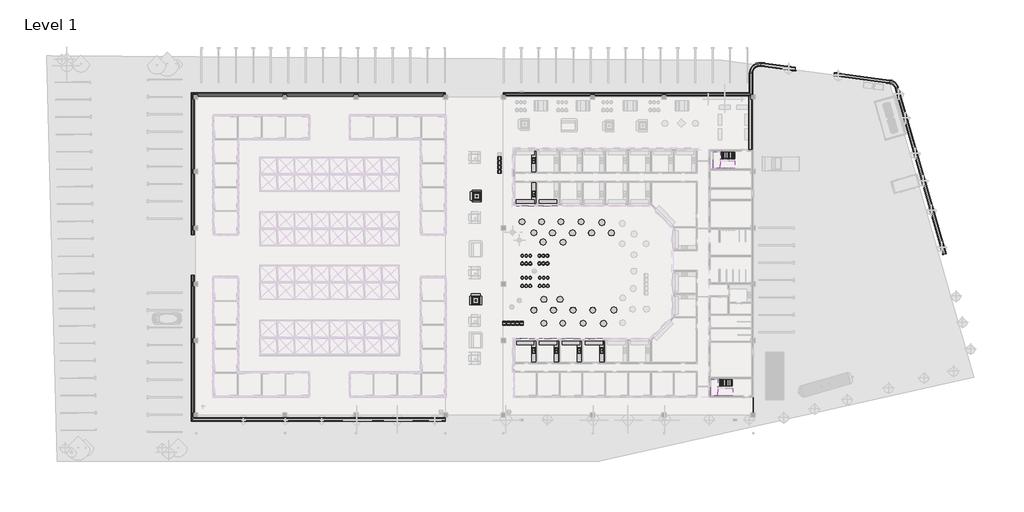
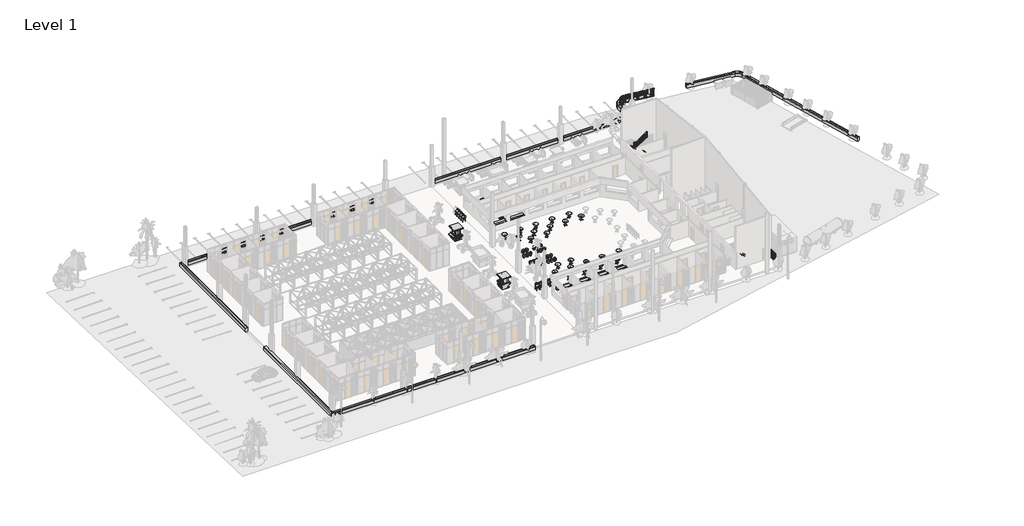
# One storey, part 29 of 32: 70 furniture elements, 8 railings, 6 flow terminals, 4 stair flights, 2 slabs.
"""IFC4 building model written with IfcOpenShell, lengths in millimetres."""

from ifc_helpers import new_model, si_unit, frame, origin, place, context, project, spatial, polyline, outline, extrude, faceted_brep, transform, mapped, element, save
from components import sink_kitchen_single_nz_760_x_535mm_626cda17, sink_kitchen_single_nz_760_x_535mm_eb015a84, furniture_c6f59ad9, counter_top_w_sink_nz_600mm_depth_6aa80716, counter_top_w_sink_nz_600mm_depth_e841d6a1, counter_top_island_nz_1220mm_depth_f6c0dd12, counter_top_island_nz_1220mm_depth_a1c74609, r225_brown_ebbc99b0, r225_brown_f5428c6b, r425_h750_a5844c7b, red_9dfa4864, red_3fb05847, railing_e34913bf, railing_7c37f561, railing_0471145e, railing_0e9476dd, railing_5606f964, fencing_tree_park_201aa649, fencing_tree_park_5cc4b941, fencing_tree_park_2f6e36ae, fencing_tree_park_3937f9b8, non_monolithic_landing_f94249ac, non_monolithic_landing_9e87be6b, wood_steps_w_50mm_tread_10mm_nosing_13mm_riser_b8e6a5a3, wood_steps_w_50mm_tread_10mm_nosing_13mm_riser_a1ae9321, wood_steps_w_50mm_tread_10mm_nosing_13mm_riser_582ac1d6, wood_steps_w_50mm_tread_10mm_nosing_13mm_riser_24bd857b

model = new_model("IFC4")

# Units and contexts
model_context = context("Model", 3, world=origin())
ifc_project = project(units=[si_unit("LENGTHUNIT", "METRE", prefix="MILLI")], contexts=[model_context])

# Site, building, storey
site = spatial("IfcSite", under=ifc_project)
building = spatial("IfcBuilding", under=site)
storey = spatial("IfcBuildingStorey", under=building, Name="Level 1", Elevation=2800.0)

# Flow terminals
placement = place(None, origin())
sink_kitchen_single_nz_760_x_535mm_shape = sink_kitchen_single_nz_760_x_535mm_626cda17(model_context)
element("IfcFlowTerminal", 1, ObjectType="Sink Kitchen-Single (NZ) : 760 x 535mm", at=placement, inside=storey, context=model_context, shape_type="MappedRepresentation", body=[
    mapped(sink_kitchen_single_nz_760_x_535mm_shape, transform((-42999.2510766, -740.6307191, 2800.0), x_axis=(0.0, -1.0, 0.0), y_axis=(1.0, 0.0, 0.0), z_axis=(0.0, 0.0, 1.0))),
])
element("IfcFlowTerminal", 2, ObjectType="Sink Kitchen-Single (NZ) : 760 x 535mm", at=placement, inside=storey, context=model_context, shape_type="MappedRepresentation", body=[
    mapped(sink_kitchen_single_nz_760_x_535mm_shape, transform((-33628.2510766, -26940.6307191, 2800.0), x_axis=(0.0, -1.0, 0.0), y_axis=(1.0, 0.0, 0.0), z_axis=(0.0, 0.0, 1.0))),
])
element("IfcFlowTerminal", 3, ObjectType="Sink Kitchen-Single (NZ) : 760 x 535mm", at=placement, inside=storey, context=model_context, shape_type="MappedRepresentation", body=[
    mapped(sink_kitchen_single_nz_760_x_535mm_shape, transform((-36724.2510766, -26940.6307191, 2800.0), x_axis=(0.0, -1.0, 0.0), y_axis=(1.0, 0.0, 0.0), z_axis=(0.0, 0.0, 1.0))),
])
element("IfcFlowTerminal", 4, ObjectType="Sink Kitchen-Single (NZ) : 760 x 535mm", at=placement, inside=storey, context=model_context, shape_type="MappedRepresentation", body=[
    mapped(sink_kitchen_single_nz_760_x_535mm_shape, transform((-39874.2510766, -26940.6307191, 2800.0), x_axis=(0.0, -1.0, 0.0), y_axis=(1.0, 0.0, 0.0), z_axis=(0.0, 0.0, 1.0))),
])
element("IfcFlowTerminal", 5, ObjectType="Sink Kitchen-Single (NZ) : 760 x 535mm", at=placement, inside=storey, context=model_context, shape_type="MappedRepresentation", body=[
    mapped(sink_kitchen_single_nz_760_x_535mm_shape, transform((-42999.2510766, -26940.6307191, 2800.0), x_axis=(0.0, -1.0, 0.0), y_axis=(1.0, 0.0, 0.0), z_axis=(0.0, 0.0, 1.0))),
])
sink_kitchen_single_nz_760_x_535mm_2_shape = sink_kitchen_single_nz_760_x_535mm_eb015a84(model_context)
element("IfcFlowTerminal", 6, ObjectType="Sink Kitchen-Single (NZ) : 760 x 535mm", at=placement, inside=storey, context=model_context, shape_type="MappedRepresentation", body=[
    mapped(sink_kitchen_single_nz_760_x_535mm_2_shape, transform((-42999.2510766, -5371.2092002, 2800.0), x_axis=(0.0, 1.0, 0.0), y_axis=(-1.0, 0.0, 0.0), z_axis=(0.0, 0.0, 1.0))),
])

# Furniture
furniture_shape = furniture_c6f59ad9(model_context)
element("IfcFurniture", 7, ObjectType="Mall_Kiosk_12196 : Mall_Kiosk_12196", at=placement, inside=storey, context=model_context, shape_type="MappedRepresentation", body=[
    mapped(furniture_shape, transform((-50736.8478201, -20043.4199596, 2800.0), x_axis=(-1.0, 0.0, 0.0), y_axis=(0.0, -1.0, 0.0), z_axis=(0.0, 0.0, 1.0))),
])
element("IfcFurniture", 8, ObjectType="Mall_Kiosk_12196 : Mall_Kiosk_12196", at=placement, inside=storey, context=model_context, shape_type="MappedRepresentation", body=[
    mapped(furniture_shape, transform((-50903.171286, -5343.4199596, 2800.0), x_axis=(0.0, -1.0, 0.0), y_axis=(1.0, 0.0, 0.0), z_axis=(0.0, 0.0, 1.0))),
])
counter_top_w_sink_nz_600mm_depth_shape = counter_top_w_sink_nz_600mm_depth_6aa80716(model_context)
element("IfcFurniture", 9, ObjectType="Counter Top w Sink (NZ) : 600mm Depth", at=placement, inside=storey, context=model_context, shape_type="MappedRepresentation", body=[
    mapped(counter_top_w_sink_nz_600mm_depth_shape, transform((-42686.3056755, -606.3822547, 2800.0), x_axis=(0.0, -1.0, 0.0), y_axis=(1.0, 0.0, 0.0), z_axis=(0.0, 0.0, 1.0))),
])
element("IfcFurniture", 10, ObjectType="Counter Top w Sink (NZ) : 600mm Depth", at=placement, inside=storey, context=model_context, shape_type="MappedRepresentation", body=[
    mapped(counter_top_w_sink_nz_600mm_depth_shape, transform((-33315.3056755, -26806.3822547, 2800.0), x_axis=(0.0, -1.0, 0.0), y_axis=(1.0, 0.0, 0.0), z_axis=(0.0, 0.0, 1.0))),
])
element("IfcFurniture", 11, ObjectType="Counter Top w Sink (NZ) : 600mm Depth", at=placement, inside=storey, context=model_context, shape_type="MappedRepresentation", body=[
    mapped(counter_top_w_sink_nz_600mm_depth_shape, transform((-36411.3056755, -26806.3822547, 2800.0), x_axis=(0.0, -1.0, 0.0), y_axis=(1.0, 0.0, 0.0), z_axis=(0.0, 0.0, 1.0))),
])
element("IfcFurniture", 12, ObjectType="Counter Top w Sink (NZ) : 600mm Depth", at=placement, inside=storey, context=model_context, shape_type="MappedRepresentation", body=[
    mapped(counter_top_w_sink_nz_600mm_depth_shape, transform((-39561.3056755, -26806.3822547, 2800.0), x_axis=(0.0, -1.0, 0.0), y_axis=(1.0, 0.0, 0.0), z_axis=(0.0, 0.0, 1.0))),
])
element("IfcFurniture", 13, ObjectType="Counter Top w Sink (NZ) : 600mm Depth", at=placement, inside=storey, context=model_context, shape_type="MappedRepresentation", body=[
    mapped(counter_top_w_sink_nz_600mm_depth_shape, transform((-42686.3056755, -26806.3822547, 2800.0), x_axis=(0.0, -1.0, 0.0), y_axis=(1.0, 0.0, 0.0), z_axis=(0.0, 0.0, 1.0))),
])
counter_top_w_sink_nz_600mm_depth_2_shape = counter_top_w_sink_nz_600mm_depth_e841d6a1(model_context)
element("IfcFurniture", 14, ObjectType="Counter Top w Sink (NZ) : 600mm Depth", at=placement, inside=storey, context=model_context, shape_type="MappedRepresentation", body=[
    mapped(counter_top_w_sink_nz_600mm_depth_2_shape, transform((-42686.3056755, -5505.4576645, 2800.0), x_axis=(0.0, 1.0, 0.0), y_axis=(-1.0, 0.0, 0.0), z_axis=(0.0, 0.0, 1.0))),
])
counter_top_island_nz_1220mm_depth_shape = counter_top_island_nz_1220mm_depth_f6c0dd12(model_context)
element("IfcFurniture", 15, ObjectType="Counter Top-Island (NZ) : 1220mm Depth", at=placement, inside=storey, context=model_context, shape_type="MappedRepresentation", body=[
    mapped(counter_top_island_nz_1220mm_depth_shape, transform((-41086.7679705, -6190.9199596, 3100.0), x_axis=(-1.0, 0.0, 0.0), y_axis=(0.0, -1.0, 0.0), z_axis=(0.0, 0.0, 1.0))),
])
element("IfcFurniture", 16, ObjectType="Counter Top-Island (NZ) : 1220mm Depth", at=placement, inside=storey, context=model_context, shape_type="MappedRepresentation", body=[
    mapped(counter_top_island_nz_1220mm_depth_shape, transform((-44207.3962304, -6190.9199596, 3100.0), x_axis=(-1.0, 0.0, 0.0), y_axis=(0.0, -1.0, 0.0), z_axis=(0.0, 0.0, 1.0))),
])
counter_top_island_nz_1220mm_depth_2_shape = counter_top_island_nz_1220mm_depth_a1c74609(model_context)
element("IfcFurniture", 17, ObjectType="Counter Top-Island (NZ) : 1220mm Depth", at=placement, inside=storey, context=model_context, shape_type="MappedRepresentation", body=[
    mapped(counter_top_island_nz_1220mm_depth_2_shape, transform((-34761.3962304, -26120.9199596, 3100.0), x_axis=(-1.0, 0.0, 0.0), y_axis=(0.0, -1.0, 0.0), z_axis=(0.0, 0.0, 1.0))),
])
element("IfcFurniture", 18, ObjectType="Counter Top-Island (NZ) : 1220mm Depth", at=placement, inside=storey, context=model_context, shape_type="MappedRepresentation", body=[
    mapped(counter_top_island_nz_1220mm_depth_2_shape, transform((-37911.3962304, -26120.9199596, 3100.0), x_axis=(-1.0, 0.0, 0.0), y_axis=(0.0, -1.0, 0.0), z_axis=(0.0, 0.0, 1.0))),
])
element("IfcFurniture", 19, ObjectType="Counter Top-Island (NZ) : 1220mm Depth", at=placement, inside=storey, context=model_context, shape_type="MappedRepresentation", body=[
    mapped(counter_top_island_nz_1220mm_depth_2_shape, transform((-41061.3962304, -26120.9199596, 3100.0), x_axis=(-1.0, 0.0, 0.0), y_axis=(0.0, -1.0, 0.0), z_axis=(0.0, 0.0, 1.0))),
])
element("IfcFurniture", 20, ObjectType="Counter Top-Island (NZ) : 1220mm Depth", at=placement, inside=storey, context=model_context, shape_type="MappedRepresentation", body=[
    mapped(counter_top_island_nz_1220mm_depth_2_shape, transform((-44211.3962304, -26120.9199596, 3100.0), x_axis=(-1.0, 0.0, 0.0), y_axis=(0.0, -1.0, 0.0), z_axis=(0.0, 0.0, 1.0))),
])
r225_brown_shape = r225_brown_ebbc99b0(model_context)
element("IfcFurniture", 21, ObjectType="TN.RES.Stool01 : R225 Brown", at=placement, inside=storey, context=model_context, shape_type="MappedRepresentation", body=[
    mapped(r225_brown_shape, transform((-41120.9339353, -16912.1595997, 2800.0), x_axis=(-1.0, 0.0, 0.0), y_axis=(0.0, -1.0, 0.0), z_axis=(0.0, 0.0, 1.0))),
])
element("IfcFurniture", 22, ObjectType="TN.RES.Stool01 : R225 Brown", at=placement, inside=storey, context=model_context, shape_type="MappedRepresentation", body=[
    mapped(r225_brown_shape, transform((-41670.9339353, -16912.1595997, 2800.0), x_axis=(-1.0, 0.0, 0.0), y_axis=(0.0, -1.0, 0.0), z_axis=(0.0, 0.0, 1.0))),
])
element("IfcFurniture", 23, ObjectType="TN.RES.Stool01 : R225 Brown", at=placement, inside=storey, context=model_context, shape_type="MappedRepresentation", body=[
    mapped(r225_brown_shape, transform((-42220.9339353, -16912.1595997, 2800.0), x_axis=(-1.0, 0.0, 0.0), y_axis=(0.0, -1.0, 0.0), z_axis=(0.0, 0.0, 1.0))),
])
element("IfcFurniture", 24, ObjectType="TN.RES.Stool01 : R225 Brown", at=placement, inside=storey, context=model_context, shape_type="MappedRepresentation", body=[
    mapped(r225_brown_shape, transform((-43530.9339353, -16912.1595997, 2800.0), x_axis=(-1.0, 0.0, 0.0), y_axis=(0.0, -1.0, 0.0), z_axis=(0.0, 0.0, 1.0))),
])
element("IfcFurniture", 25, ObjectType="TN.RES.Stool01 : R225 Brown", at=placement, inside=storey, context=model_context, shape_type="MappedRepresentation", body=[
    mapped(r225_brown_shape, transform((-44080.9339353, -16912.1595997, 2800.0), x_axis=(-1.0, 0.0, 0.0), y_axis=(0.0, -1.0, 0.0), z_axis=(0.0, 0.0, 1.0))),
])
element("IfcFurniture", 26, ObjectType="TN.RES.Stool01 : R225 Brown", at=placement, inside=storey, context=model_context, shape_type="MappedRepresentation", body=[
    mapped(r225_brown_shape, transform((-44630.9339353, -16912.1595997, 2800.0), x_axis=(-1.0, 0.0, 0.0), y_axis=(0.0, -1.0, 0.0), z_axis=(0.0, 0.0, 1.0))),
])
element("IfcFurniture", 27, ObjectType="TN.RES.Stool01 : R225 Brown", at=placement, inside=storey, context=model_context, shape_type="MappedRepresentation", body=[
    mapped(r225_brown_shape, transform((-41157.3204104, -13862.7618597, 2800.0), x_axis=(-1.0, 0.0, 0.0), y_axis=(0.0, -1.0, 0.0), z_axis=(0.0, 0.0, 1.0))),
])
element("IfcFurniture", 28, ObjectType="TN.RES.Stool01 : R225 Brown", at=placement, inside=storey, context=model_context, shape_type="MappedRepresentation", body=[
    mapped(r225_brown_shape, transform((-41707.3204104, -13862.7618597, 2800.0), x_axis=(-1.0, 0.0, 0.0), y_axis=(0.0, -1.0, 0.0), z_axis=(0.0, 0.0, 1.0))),
])
element("IfcFurniture", 29, ObjectType="TN.RES.Stool01 : R225 Brown", at=placement, inside=storey, context=model_context, shape_type="MappedRepresentation", body=[
    mapped(r225_brown_shape, transform((-42257.3204104, -13862.7618597, 2800.0), x_axis=(-1.0, 0.0, 0.0), y_axis=(0.0, -1.0, 0.0), z_axis=(0.0, 0.0, 1.0))),
])
element("IfcFurniture", 30, ObjectType="TN.RES.Stool01 : R225 Brown", at=placement, inside=storey, context=model_context, shape_type="MappedRepresentation", body=[
    mapped(r225_brown_shape, transform((-43530.9339353, -13862.7618597, 2800.0), x_axis=(-1.0, 0.0, 0.0), y_axis=(0.0, -1.0, 0.0), z_axis=(0.0, 0.0, 1.0))),
])
element("IfcFurniture", 31, ObjectType="TN.RES.Stool01 : R225 Brown", at=placement, inside=storey, context=model_context, shape_type="MappedRepresentation", body=[
    mapped(r225_brown_shape, transform((-44080.9339353, -13862.7618597, 2800.0), x_axis=(-1.0, 0.0, 0.0), y_axis=(0.0, -1.0, 0.0), z_axis=(0.0, 0.0, 1.0))),
])
element("IfcFurniture", 32, ObjectType="TN.RES.Stool01 : R225 Brown", at=placement, inside=storey, context=model_context, shape_type="MappedRepresentation", body=[
    mapped(r225_brown_shape, transform((-44630.9339353, -13862.7618597, 2800.0), x_axis=(-1.0, 0.0, 0.0), y_axis=(0.0, -1.0, 0.0), z_axis=(0.0, 0.0, 1.0))),
])
r225_brown_2_shape = r225_brown_f5428c6b(model_context)
element("IfcFurniture", 33, ObjectType="TN.RES.Stool01 : R225 Brown", at=placement, inside=storey, context=model_context, shape_type="MappedRepresentation", body=[
    mapped(r225_brown_2_shape, transform((-41120.9339353, -17999.6803196, 2800.0), x_axis=(-1.0, 0.0, 0.0), y_axis=(0.0, -1.0, 0.0), z_axis=(0.0, 0.0, 1.0))),
])
element("IfcFurniture", 34, ObjectType="TN.RES.Stool01 : R225 Brown", at=placement, inside=storey, context=model_context, shape_type="MappedRepresentation", body=[
    mapped(r225_brown_2_shape, transform((-41670.9339353, -17999.6803196, 2800.0), x_axis=(-1.0, 0.0, 0.0), y_axis=(0.0, -1.0, 0.0), z_axis=(0.0, 0.0, 1.0))),
])
element("IfcFurniture", 35, ObjectType="TN.RES.Stool01 : R225 Brown", at=placement, inside=storey, context=model_context, shape_type="MappedRepresentation", body=[
    mapped(r225_brown_2_shape, transform((-42220.9339353, -17999.6803196, 2800.0), x_axis=(-1.0, 0.0, 0.0), y_axis=(0.0, -1.0, 0.0), z_axis=(0.0, 0.0, 1.0))),
])
element("IfcFurniture", 36, ObjectType="TN.RES.Stool01 : R225 Brown", at=placement, inside=storey, context=model_context, shape_type="MappedRepresentation", body=[
    mapped(r225_brown_2_shape, transform((-43530.9339353, -17999.6803196, 2800.0), x_axis=(-1.0, 0.0, 0.0), y_axis=(0.0, -1.0, 0.0), z_axis=(0.0, 0.0, 1.0))),
])
element("IfcFurniture", 37, ObjectType="TN.RES.Stool01 : R225 Brown", at=placement, inside=storey, context=model_context, shape_type="MappedRepresentation", body=[
    mapped(r225_brown_2_shape, transform((-44080.9339353, -17999.6803196, 2800.0), x_axis=(-1.0, 0.0, 0.0), y_axis=(0.0, -1.0, 0.0), z_axis=(0.0, 0.0, 1.0))),
])
element("IfcFurniture", 38, ObjectType="TN.RES.Stool01 : R225 Brown", at=placement, inside=storey, context=model_context, shape_type="MappedRepresentation", body=[
    mapped(r225_brown_2_shape, transform((-44630.9339353, -17999.6803196, 2800.0), x_axis=(-1.0, 0.0, 0.0), y_axis=(0.0, -1.0, 0.0), z_axis=(0.0, 0.0, 1.0))),
])
element("IfcFurniture", 39, ObjectType="TN.RES.Stool01 : R225 Brown", at=placement, inside=storey, context=model_context, shape_type="MappedRepresentation", body=[
    mapped(r225_brown_2_shape, transform((-41157.3204104, -14950.2825796, 2800.0), x_axis=(-1.0, 0.0, 0.0), y_axis=(0.0, -1.0, 0.0), z_axis=(0.0, 0.0, 1.0))),
])
element("IfcFurniture", 40, ObjectType="TN.RES.Stool01 : R225 Brown", at=placement, inside=storey, context=model_context, shape_type="MappedRepresentation", body=[
    mapped(r225_brown_2_shape, transform((-41707.3204104, -14950.2825796, 2800.0), x_axis=(-1.0, 0.0, 0.0), y_axis=(0.0, -1.0, 0.0), z_axis=(0.0, 0.0, 1.0))),
])
element("IfcFurniture", 41, ObjectType="TN.RES.Stool01 : R225 Brown", at=placement, inside=storey, context=model_context, shape_type="MappedRepresentation", body=[
    mapped(r225_brown_2_shape, transform((-42257.3204104, -14950.2825796, 2800.0), x_axis=(-1.0, 0.0, 0.0), y_axis=(0.0, -1.0, 0.0), z_axis=(0.0, 0.0, 1.0))),
])
element("IfcFurniture", 42, ObjectType="TN.RES.Stool01 : R225 Brown", at=placement, inside=storey, context=model_context, shape_type="MappedRepresentation", body=[
    mapped(r225_brown_2_shape, transform((-43530.9339353, -14950.2825796, 2800.0), x_axis=(-1.0, 0.0, 0.0), y_axis=(0.0, -1.0, 0.0), z_axis=(0.0, 0.0, 1.0))),
])
element("IfcFurniture", 43, ObjectType="TN.RES.Stool01 : R225 Brown", at=placement, inside=storey, context=model_context, shape_type="MappedRepresentation", body=[
    mapped(r225_brown_2_shape, transform((-44080.9339353, -14950.2825796, 2800.0), x_axis=(-1.0, 0.0, 0.0), y_axis=(0.0, -1.0, 0.0), z_axis=(0.0, 0.0, 1.0))),
])
element("IfcFurniture", 44, ObjectType="TN.RES.Stool01 : R225 Brown", at=placement, inside=storey, context=model_context, shape_type="MappedRepresentation", body=[
    mapped(r225_brown_2_shape, transform((-44630.9339353, -14950.2825796, 2800.0), x_axis=(-1.0, 0.0, 0.0), y_axis=(0.0, -1.0, 0.0), z_axis=(0.0, 0.0, 1.0))),
])
r425_h750_shape = r425_h750_a5844c7b(model_context)
element("IfcFurniture", 45, ObjectType="TN.RES.Table03 : R425 H750", at=placement, inside=storey, context=model_context, shape_type="MappedRepresentation", body=[
    mapped(r425_h750_shape, transform((-32001.456022, -21343.4199146, 2800.0), x_axis=(0.0, -1.0, 0.0), y_axis=(1.0, 0.0, 0.0), z_axis=(0.0, 0.0, 1.0))),
])
element("IfcFurniture", 46, ObjectType="TN.RES.Table03 : R425 H750", at=placement, inside=storey, context=model_context, shape_type="MappedRepresentation", body=[
    mapped(r425_h750_shape, transform((-33424.6748473, -23203.1387689, 2800.0), x_axis=(-0.7071067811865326, 0.7071067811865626, 0.0), y_axis=(-0.7071067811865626, -0.7071067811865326, 0.0), z_axis=(0.0, 0.0, 1.0))),
])
element("IfcFurniture", 47, ObjectType="TN.RES.Table03 : R425 H750", at=placement, inside=storey, context=model_context, shape_type="MappedRepresentation", body=[
    mapped(r425_h750_shape, transform((-36230.1773642, -23180.214161, 2800.0), x_axis=(-0.7071067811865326, 0.7071067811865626, 0.0), y_axis=(-0.7071067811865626, -0.7071067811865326, 0.0), z_axis=(0.0, 0.0, 1.0))),
])
element("IfcFurniture", 48, ObjectType="TN.RES.Table03 : R425 H750", at=placement, inside=storey, context=model_context, shape_type="MappedRepresentation", body=[
    mapped(r425_h750_shape, transform((-39051.3163916, -23172.9260637, 2800.0), x_axis=(-0.7071067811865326, 0.7071067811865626, 0.0), y_axis=(-0.7071067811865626, -0.7071067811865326, 0.0), z_axis=(0.0, 0.0, 1.0))),
])
element("IfcFurniture", 49, ObjectType="TN.RES.Table03 : R425 H750", at=placement, inside=storey, context=model_context, shape_type="MappedRepresentation", body=[
    mapped(r425_h750_shape, transform((-34902.3580628, -21376.9958771, 2800.0), x_axis=(0.0, -1.0, 0.0), y_axis=(1.0, 0.0, 0.0), z_axis=(0.0, 0.0, 1.0))),
])
element("IfcFurniture", 50, ObjectType="TN.RES.Table03 : R425 H750", at=placement, inside=storey, context=model_context, shape_type="MappedRepresentation", body=[
    mapped(r425_h750_shape, transform((-37627.1946337, -21376.9958771, 2800.0), x_axis=(0.0, -1.0, 0.0), y_axis=(1.0, 0.0, 0.0), z_axis=(0.0, 0.0, 1.0))),
])
element("IfcFurniture", 51, ObjectType="TN.RES.Table03 : R425 H750", at=placement, inside=storey, context=model_context, shape_type="MappedRepresentation", body=[
    mapped(r425_h750_shape, transform((-35069.5098978, -10714.4958771, 2800.0), x_axis=(0.0, -1.0, 0.0), y_axis=(1.0, 0.0, 0.0), z_axis=(0.0, 0.0, 1.0))),
])
element("IfcFurniture", 52, ObjectType="TN.RES.Table03 : R425 H750", at=placement, inside=storey, context=model_context, shape_type="MappedRepresentation", body=[
    mapped(r425_h750_shape, transform((-33652.4015737, -9299.6035104, 2800.0), x_axis=(-0.7071067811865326, 0.7071067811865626, 0.0), y_axis=(-0.7071067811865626, -0.7071067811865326, 0.0), z_axis=(0.0, 0.0, 1.0))),
])
element("IfcFurniture", 53, ObjectType="TN.RES.Table03 : R425 H750", at=placement, inside=storey, context=model_context, shape_type="MappedRepresentation", body=[
    mapped(r425_h750_shape, transform((-36512.4691651, -9187.1534774, 2800.0), x_axis=(-0.7071067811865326, 0.7071067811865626, 0.0), y_axis=(-0.7071067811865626, -0.7071067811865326, 0.0), z_axis=(0.0, 0.0, 1.0))),
])
element("IfcFurniture", 54, ObjectType="TN.RES.Table03 : R425 H750", at=placement, inside=storey, context=model_context, shape_type="MappedRepresentation", body=[
    mapped(r425_h750_shape, transform((-39309.2121, -9184.5230923, 2800.0), x_axis=(-0.7071067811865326, 0.7071067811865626, 0.0), y_axis=(-0.7071067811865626, -0.7071067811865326, 0.0), z_axis=(0.0, 0.0, 1.0))),
])
element("IfcFurniture", 55, ObjectType="TN.RES.Table03 : R425 H750", at=placement, inside=storey, context=model_context, shape_type="MappedRepresentation", body=[
    mapped(r425_h750_shape, transform((-37694.3464687, -10714.4958771, 2800.0), x_axis=(0.0, -1.0, 0.0), y_axis=(1.0, 0.0, 0.0), z_axis=(0.0, 0.0, 1.0))),
])
element("IfcFurniture", 56, ObjectType="TN.RES.Table03 : R425 H750", at=placement, inside=storey, context=model_context, shape_type="MappedRepresentation", body=[
    mapped(r425_h750_shape, transform((-40460.9339353, -10714.4958771, 2800.0), x_axis=(0.0, -1.0, 0.0), y_axis=(1.0, 0.0, 0.0), z_axis=(0.0, 0.0, 1.0))),
])
element("IfcFurniture", 57, ObjectType="TN.RES.Table03 : R425 H750", at=placement, inside=storey, context=model_context, shape_type="MappedRepresentation", body=[
    mapped(r425_h750_shape, transform((-41651.3163916, -23172.9260637, 2800.0), x_axis=(-0.7071067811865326, 0.7071067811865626, 0.0), y_axis=(-0.7071067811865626, -0.7071067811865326, 0.0), z_axis=(0.0, 0.0, 1.0))),
])
element("IfcFurniture", 58, ObjectType="TN.RES.Table03 : R425 H750", at=placement, inside=storey, context=model_context, shape_type="MappedRepresentation", body=[
    mapped(r425_h750_shape, transform((-40327.1946337, -21376.9958771, 2800.0), x_axis=(0.0, -1.0, 0.0), y_axis=(1.0, 0.0, 0.0), z_axis=(0.0, 0.0, 1.0))),
])
element("IfcFurniture", 59, ObjectType="TN.RES.Table03 : R425 H750", at=placement, inside=storey, context=model_context, shape_type="MappedRepresentation", body=[
    mapped(r425_h750_shape, transform((-43027.1946337, -21376.9958771, 2800.0), x_axis=(0.0, -1.0, 0.0), y_axis=(1.0, 0.0, 0.0), z_axis=(0.0, 0.0, 1.0))),
])
element("IfcFurniture", 60, ObjectType="TN.RES.Table03 : R425 H750", at=placement, inside=storey, context=model_context, shape_type="MappedRepresentation", body=[
    mapped(r425_h750_shape, transform((-41651.3163916, -19880.9199596, 2800.0), x_axis=(-0.7071067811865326, 0.7071067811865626, 0.0), y_axis=(-0.7071067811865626, -0.7071067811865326, 0.0), z_axis=(0.0, 0.0, 1.0))),
])
element("IfcFurniture", 61, ObjectType="TN.RES.Table03 : R425 H750", at=placement, inside=storey, context=model_context, shape_type="MappedRepresentation", body=[
    mapped(r425_h750_shape, transform((-39423.7747285, -19880.9199596, 2800.0), x_axis=(-0.7071067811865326, 0.7071067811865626, 0.0), y_axis=(-0.7071067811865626, -0.7071067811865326, 0.0), z_axis=(0.0, 0.0, 1.0))),
])
element("IfcFurniture", 62, ObjectType="TN.RES.Table03 : R425 H750", at=placement, inside=storey, context=model_context, shape_type="MappedRepresentation", body=[
    mapped(r425_h750_shape, transform((-32344.3464687, -10714.4958771, 2800.0), x_axis=(0.0, -1.0, 0.0), y_axis=(1.0, 0.0, 0.0), z_axis=(0.0, 0.0, 1.0))),
])
element("IfcFurniture", 63, ObjectType="TN.RES.Table03 : R425 H750", at=placement, inside=storey, context=model_context, shape_type="MappedRepresentation", body=[
    mapped(r425_h750_shape, transform((-43027.1946337, -10705.9199596, 2800.0), x_axis=(0.0, -1.0, 0.0), y_axis=(1.0, 0.0, 0.0), z_axis=(0.0, 0.0, 1.0))),
])
element("IfcFurniture", 64, ObjectType="TN.RES.Table03 : R425 H750", at=placement, inside=storey, context=model_context, shape_type="MappedRepresentation", body=[
    mapped(r425_h750_shape, transform((-41954.9472692, -9184.5230923, 2800.0), x_axis=(-0.7071067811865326, 0.7071067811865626, 0.0), y_axis=(-0.7071067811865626, -0.7071067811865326, 0.0), z_axis=(0.0, 0.0, 1.0))),
])
element("IfcFurniture", 65, ObjectType="TN.RES.Table03 : R425 H750", at=placement, inside=storey, context=model_context, shape_type="MappedRepresentation", body=[
    mapped(r425_h750_shape, transform((-44654.9472692, -9184.5230923, 2800.0), x_axis=(-0.7071067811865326, 0.7071067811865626, 0.0), y_axis=(-0.7071067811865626, -0.7071067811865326, 0.0), z_axis=(0.0, 0.0, 1.0))),
])
element("IfcFurniture", 66, ObjectType="TN.RES.Table03 : R425 H750", at=placement, inside=storey, context=model_context, shape_type="MappedRepresentation", body=[
    mapped(r425_h750_shape, transform((-41754.9472692, -11984.5230923, 2800.0), x_axis=(-0.7071067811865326, 0.7071067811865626, 0.0), y_axis=(-0.7071067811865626, -0.7071067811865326, 0.0), z_axis=(0.0, 0.0, 1.0))),
])
element("IfcFurniture", 67, ObjectType="TN.RES.Table03 : R425 H750", at=placement, inside=storey, context=model_context, shape_type="MappedRepresentation", body=[
    mapped(r425_h750_shape, transform((-39009.2121, -12010.7897641, 2800.0), x_axis=(-0.7071067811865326, 0.7071067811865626, 0.0), y_axis=(-0.7071067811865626, -0.7071067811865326, 0.0), z_axis=(0.0, 0.0, 1.0))),
])
red_shape = red_9dfa4864(model_context)
element("IfcFurniture", 68, ObjectType="TN.RES.Chair05 : Red", at=placement, inside=storey, context=model_context, shape_type="MappedRepresentation", body=[
    mapped(red_shape, transform((-47750.3056755, -480.9199596, 2800.0), x_axis=(0.0, 1.0, 0.0), y_axis=(-1.0, 0.0, 0.0), z_axis=(0.0, 0.0, 1.0))),
])
element("IfcFurniture", 69, ObjectType="TN.RES.Chair05 : Red", at=placement, inside=storey, context=model_context, shape_type="MappedRepresentation", body=[
    mapped(red_shape, transform((-47750.3056755, -1080.9199596, 2800.0), x_axis=(0.0, 1.0, 0.0), y_axis=(-1.0, 0.0, 0.0), z_axis=(0.0, 0.0, 1.0))),
])
element("IfcFurniture", 70, ObjectType="TN.RES.Chair05 : Red", at=placement, inside=storey, context=model_context, shape_type="MappedRepresentation", body=[
    mapped(red_shape, transform((-47750.3056755, -1680.9199596, 2800.0), x_axis=(0.0, 1.0, 0.0), y_axis=(-1.0, 0.0, 0.0), z_axis=(0.0, 0.0, 1.0))),
])
element("IfcFurniture", 71, ObjectType="TN.RES.Chair05 : Red", at=placement, inside=storey, context=model_context, shape_type="MappedRepresentation", body=[
    mapped(red_shape, transform((-47750.3056755, -2280.9199596, 2800.0), x_axis=(0.0, 1.0, 0.0), y_axis=(-1.0, 0.0, 0.0), z_axis=(0.0, 0.0, 1.0))),
])
red_2_shape = red_3fb05847(model_context)
element("IfcFurniture", 72, ObjectType="TN.RES.Chair05 : Red", at=placement, inside=storey, context=model_context, shape_type="MappedRepresentation", body=[
    mapped(red_2_shape, transform((-44717.4077866, -23175.9199596, 2800.0), x_axis=(1.0, 0.0, 0.0), y_axis=(0.0, 1.0, 0.0), z_axis=(0.0, 0.0, 1.0))),
])
element("IfcFurniture", 73, ObjectType="TN.RES.Chair05 : Red", at=placement, inside=storey, context=model_context, shape_type="MappedRepresentation", body=[
    mapped(red_2_shape, transform((-45317.4077866, -23175.9199596, 2800.0), x_axis=(1.0, 0.0, 0.0), y_axis=(0.0, 1.0, 0.0), z_axis=(0.0, 0.0, 1.0))),
])
element("IfcFurniture", 74, ObjectType="TN.RES.Chair05 : Red", at=placement, inside=storey, context=model_context, shape_type="MappedRepresentation", body=[
    mapped(red_2_shape, transform((-45917.4077866, -23175.9199596, 2800.0), x_axis=(1.0, 0.0, 0.0), y_axis=(0.0, 1.0, 0.0), z_axis=(0.0, 0.0, 1.0))),
])
element("IfcFurniture", 75, ObjectType="TN.RES.Chair05 : Red", at=placement, inside=storey, context=model_context, shape_type="MappedRepresentation", body=[
    mapped(red_2_shape, transform((-46517.4077866, -23175.9199596, 2800.0), x_axis=(1.0, 0.0, 0.0), y_axis=(0.0, 1.0, 0.0), z_axis=(0.0, 0.0, 1.0))),
])
element("IfcFurniture", 76, ObjectType="TN.RES.Chair05 : Red", at=placement, inside=storey, context=model_context, shape_type="MappedRepresentation", body=[
    mapped(red_2_shape, transform((-47117.4077866, -23175.9199596, 2800.0), x_axis=(1.0, 0.0, 0.0), y_axis=(0.0, 1.0, 0.0), z_axis=(0.0, 0.0, 1.0))),
])

# Railings
railing_shape = railing_e34913bf(model_context)
element("IfcRailing", 77, ObjectType="Hedge 750mm High", at=placement, inside=storey, context=model_context, shape_type="MappedRepresentation", body=[
    mapped(railing_shape, transform((0.0, 0.0, 0.0), x_axis=(1.0, 0.0, 0.0), y_axis=(0.0, 1.0, 0.0), z_axis=(0.0, 0.0, 1.0))),
])
railing_2_shape = railing_7c37f561(model_context)
element("IfcRailing", 78, ObjectType="Hedge 750mm High", at=placement, inside=storey, context=model_context, shape_type="MappedRepresentation", body=[
    mapped(railing_2_shape, transform((0.0, 0.0, 0.0), x_axis=(1.0, 0.0, 0.0), y_axis=(0.0, 1.0, 0.0), z_axis=(0.0, 0.0, 1.0))),
])
railing_3_shape = railing_0471145e(model_context)
element("IfcRailing", 79, ObjectType="Hedge 750mm High", at=placement, inside=storey, context=model_context, shape_type="MappedRepresentation", body=[
    mapped(railing_3_shape, transform((0.0, 0.0, 0.0), x_axis=(1.0, 0.0, 0.0), y_axis=(0.0, 1.0, 0.0), z_axis=(0.0, 0.0, 1.0))),
])
railing_4_shape = railing_0e9476dd(model_context)
element("IfcRailing", 80, ObjectType="Hedge 750mm High", at=placement, inside=storey, context=model_context, shape_type="MappedRepresentation", body=[
    mapped(railing_4_shape, transform((0.0, 0.0, 0.0), x_axis=(1.0, 0.0, 0.0), y_axis=(0.0, 1.0, 0.0), z_axis=(0.0, 0.0, 1.0))),
])
railing_5_shape = railing_5606f964(model_context)
element("IfcRailing", 81, ObjectType="Hedge 750mm High", at=placement, inside=storey, context=model_context, shape_type="MappedRepresentation", body=[
    mapped(railing_5_shape, transform((0.0, 0.0, 0.0), x_axis=(1.0, 0.0, 0.0), y_axis=(0.0, 1.0, 0.0), z_axis=(0.0, 0.0, 1.0))),
])
element("IfcRailing", 82, ObjectType="1100mm", at=placement, inside=storey, context=model_context, shape_type="SolidModel", body=[
    faceted_brep([(-15325.9339353, -505.9199596, 4066.6666667), (-15325.9339353, -505.9199596, 4006.5741454), (-15325.9339353, -455.9199596, 4006.5741454), (-15325.9339353, -455.9199596, 4066.6666667), (-17251.3339353, -505.9199596, 5350.2666667), (-17301.3339353, -505.9199596, 5323.5074787), (-17301.3339353, -455.9199596, 5323.5074787), (-17251.3339353, -455.9199596, 5350.2666667), (-17251.3339353, -505.9199596, 5400.0), (-17301.3339353, -505.9199596, 5350.0), (-17301.3339353, -455.9199596, 5350.0), (-17251.3339353, -455.9199596, 5400.0), (-17326.3339353, -505.9199596, 5400.0), (-17326.3339353, -505.9199596, 5350.0), (-17376.3339353, -455.9199596, 5350.0), (-17376.3339353, -455.9199596, 5400.0), (-17326.3339353, -580.9199596, 5400.0), (-17326.3339353, -580.9199596, 5350.0), (-17376.3339353, -580.9199596, 5350.0), (-17376.3339353, -580.9199596, 5400.0), (-17326.3339353, -731.7199596, 5400.0), (-17326.3339353, -781.7199596, 5350.0), (-17376.3339353, -781.7199596, 5350.0), (-17376.3339353, -731.7199596, 5400.0), (-17326.3339353, -731.7199596, 5616.4), (-17326.3339353, -781.7199596, 5566.4), (-17376.3339353, -781.7199596, 5566.4), (-17376.3339353, -731.7199596, 5616.4), (-17326.3339353, -806.7199596, 5616.4), (-17326.3339353, -806.7199596, 5566.4), (-17376.3339353, -856.7199596, 5566.4), (-17376.3339353, -856.7199596, 5616.4), (-17251.3339353, -806.7199596, 5616.4), (-17236.1951534, -806.7199596, 5566.4), (-17236.1951534, -856.7199596, 5566.4), (-17251.3339353, -856.7199596, 5616.4), (-15325.9339353, -806.7199596, 6900.0), (-15325.9339353, -856.7199596, 6900.0), (-15325.9339353, -856.7199596, 6839.9074787), (-15325.9339353, -806.7199596, 6839.9074787)], [[[0, 1, 2, 3]], [[1, 0, 4, 5]], [[2, 1, 5, 6]], [[3, 2, 6, 7]], [[0, 3, 7, 4]], [[5, 4, 8, 9]], [[6, 5, 9, 10]], [[7, 6, 10, 11]], [[4, 7, 11, 8]], [[9, 8, 12, 13]], [[10, 9, 13, 14]], [[11, 10, 14, 15]], [[8, 11, 15, 12]], [[13, 12, 16, 17]], [[14, 13, 17, 18]], [[15, 14, 18, 19]], [[12, 15, 19, 16]], [[17, 16, 20, 21]], [[18, 17, 21, 22]], [[19, 18, 22, 23]], [[16, 19, 23, 20]], [[21, 20, 24, 25]], [[22, 21, 25, 26]], [[23, 22, 26, 27]], [[20, 23, 27, 24]], [[25, 24, 28, 29]], [[26, 25, 29, 30]], [[27, 26, 30, 31]], [[24, 27, 31, 28]], [[29, 28, 32, 33]], [[30, 29, 33, 34]], [[31, 30, 34, 35]], [[28, 31, 35, 32]], [[36, 37, 38, 39]], [[33, 32, 36, 39]], [[34, 33, 39, 38]], [[35, 34, 38, 37]], [[32, 35, 37, 36]]]),
    extrude(outline(polyline([(5633.3333333, -15426.3339353), (5633.3333333, -15401.3339353), (6789.6408121, -15401.3339353), (6772.9741454, -15426.3339353), (5633.3333333, -15426.3339353)])), frame((0.0, -844.2199596, 0.0), z_axis=(0.0, 1.0, 0.0), x_axis=(0.0, 0.0, 1.0)), (0.0, 0.0, 1.0), 25.0),
    extrude(outline(polyline([(5633.3333333, -15551.3339353), (5633.3333333, -15526.3339353), (6706.3074787, -15526.3339353), (6689.6408121, -15551.3339353), (5633.3333333, -15551.3339353)])), frame((0.0, -844.2199596, 0.0), z_axis=(0.0, 1.0, 0.0), x_axis=(0.0, 0.0, 1.0)), (0.0, 0.0, 1.0), 25.0),
    extrude(outline(polyline([(5466.6666667, -15676.3339353), (5466.6666667, -15651.3339353), (6622.9741454, -15651.3339353), (6606.3074787, -15676.3339353), (5466.6666667, -15676.3339353)])), frame((0.0, -844.2199596, 0.0), z_axis=(0.0, 1.0, 0.0), x_axis=(0.0, 0.0, 1.0)), (0.0, 0.0, 1.0), 25.0),
    extrude(outline(polyline([(5466.6666667, -15801.3339353), (5466.6666667, -15776.3339353), (6539.6408121, -15776.3339353), (6522.9741454, -15801.3339353), (5466.6666667, -15801.3339353)])), frame((0.0, -844.2199596, 0.0), z_axis=(0.0, 1.0, 0.0), x_axis=(0.0, 0.0, 1.0)), (0.0, 0.0, 1.0), 25.0),
    extrude(outline(polyline([(5300.0, -15926.3339353), (5300.0, -15901.3339353), (6456.3074787, -15901.3339353), (6439.6408121, -15926.3339353), (5300.0, -15926.3339353)])), frame((0.0, -844.2199596, 0.0), z_axis=(0.0, 1.0, 0.0), x_axis=(0.0, 0.0, 1.0)), (0.0, 0.0, 1.0), 25.0),
    extrude(outline(polyline([(5300.0, -16051.3339353), (5300.0, -16026.3339353), (6372.9741454, -16026.3339353), (6356.3074787, -16051.3339353), (5300.0, -16051.3339353)])), frame((0.0, -844.2199596, 0.0), z_axis=(0.0, 1.0, 0.0), x_axis=(0.0, 0.0, 1.0)), (0.0, 0.0, 1.0), 25.0),
    extrude(outline(polyline([(5133.3333333, -16176.3339353), (5133.3333333, -16151.3339353), (6289.6408121, -16151.3339353), (6272.9741454, -16176.3339353), (5133.3333333, -16176.3339353)])), frame((0.0, -844.2199596, 0.0), z_axis=(0.0, 1.0, 0.0), x_axis=(0.0, 0.0, 1.0)), (0.0, 0.0, 1.0), 25.0),
    extrude(outline(polyline([(5133.3333333, -16301.3339353), (5133.3333333, -16276.3339353), (6206.3074787, -16276.3339353), (6189.6408121, -16301.3339353), (5133.3333333, -16301.3339353)])), frame((0.0, -844.2199596, 0.0), z_axis=(0.0, 1.0, 0.0), x_axis=(0.0, 0.0, 1.0)), (0.0, 0.0, 1.0), 25.0),
    extrude(outline(polyline([(4966.6666667, -16426.3339353), (4966.6666667, -16401.3339353), (6122.9741454, -16401.3339353), (6106.3074787, -16426.3339353), (4966.6666667, -16426.3339353)])), frame((0.0, -844.2199596, 0.0), z_axis=(0.0, 1.0, 0.0), x_axis=(0.0, 0.0, 1.0)), (0.0, 0.0, 1.0), 25.0),
    extrude(outline(polyline([(4966.6666667, -16551.3339353), (4966.6666667, -16526.3339353), (6039.6408121, -16526.3339353), (6022.9741454, -16551.3339353), (4966.6666667, -16551.3339353)])), frame((0.0, -844.2199596, 0.0), z_axis=(0.0, 1.0, 0.0), x_axis=(0.0, 0.0, 1.0)), (0.0, 0.0, 1.0), 25.0),
    extrude(outline(polyline([(4800.0, -16676.3339353), (4800.0, -16651.3339353), (5956.3074787, -16651.3339353), (5939.6408121, -16676.3339353), (4800.0, -16676.3339353)])), frame((0.0, -844.2199596, 0.0), z_axis=(0.0, 1.0, 0.0), x_axis=(0.0, 0.0, 1.0)), (0.0, 0.0, 1.0), 25.0),
    extrude(outline(polyline([(4800.0, -16801.3339353), (4800.0, -16776.3339353), (5872.9741454, -16776.3339353), (5856.3074787, -16801.3339353), (4800.0, -16801.3339353)])), frame((0.0, -844.2199596, 0.0), z_axis=(0.0, 1.0, 0.0), x_axis=(0.0, 0.0, 1.0)), (0.0, 0.0, 1.0), 25.0),
    extrude(outline(polyline([(4633.3333333, -16926.3339353), (4633.3333333, -16901.3339353), (5789.6408121, -16901.3339353), (5772.9741454, -16926.3339353), (4633.3333333, -16926.3339353)])), frame((0.0, -844.2199596, 0.0), z_axis=(0.0, 1.0, 0.0), x_axis=(0.0, 0.0, 1.0)), (0.0, 0.0, 1.0), 25.0),
    extrude(outline(polyline([(4633.3333333, -17051.3339353), (4633.3333333, -17026.3339353), (5706.3074787, -17026.3339353), (5689.6408121, -17051.3339353), (4633.3333333, -17051.3339353)])), frame((0.0, -844.2199596, 0.0), z_axis=(0.0, 1.0, 0.0), x_axis=(0.0, 0.0, 1.0)), (0.0, 0.0, 1.0), 25.0),
    extrude(outline(polyline([(4466.6666667, -17176.3339353), (4466.6666667, -17151.3339353), (5622.9741454, -17151.3339353), (5606.3074787, -17176.3339353), (4466.6666667, -17176.3339353)])), frame((0.0, -844.2199596, 0.0), z_axis=(0.0, 1.0, 0.0), x_axis=(0.0, 0.0, 1.0)), (0.0, 0.0, 1.0), 25.0),
    extrude(outline(polyline([(-17301.3339353, -819.2199596), (-17276.3339353, -819.2199596), (-17276.3339353, -844.2199596), (-17301.3339353, -844.2199596), (-17301.3339353, -819.2199596)])), frame((0.0, 0.0, 4466.6666667), z_axis=(0.0, 0.0, 1.0), x_axis=(1.0, 0.0, 0.0)), (0.0, 0.0, 1.0), 1099.7333333),
    extrude(outline(polyline([(-17338.8339353, -780.9199596), (-17338.8339353, -805.9199596), (-17363.8339353, -805.9199596), (-17363.8339353, -780.9199596), (-17338.8339353, -780.9199596)])), frame((0.0, 0.0, 4300.0), z_axis=(0.0, 0.0, 1.0), x_axis=(1.0, 0.0, 0.0)), (0.0, 0.0, 1.0), 1266.4),
    extrude(outline(polyline([(-17338.8339353, -655.9199596), (-17338.8339353, -680.9199596), (-17363.8339353, -680.9199596), (-17363.8339353, -655.9199596), (-17338.8339353, -655.9199596)])), frame((0.0, 0.0, 4300.0), z_axis=(0.0, 0.0, 1.0), x_axis=(1.0, 0.0, 0.0)), (0.0, 0.0, 1.0), 1050.0),
    extrude(outline(polyline([(-17338.8339353, -530.9199596), (-17338.8339353, -555.9199596), (-17363.8339353, -555.9199596), (-17363.8339353, -530.9199596), (-17338.8339353, -530.9199596)])), frame((0.0, 0.0, 4300.0), z_axis=(0.0, 0.0, 1.0), x_axis=(1.0, 0.0, 0.0)), (0.0, 0.0, 1.0), 1050.0),
    extrude(outline(polyline([(-17250.9339353, -493.4199596), (-17275.9339353, -493.4199596), (-17275.9339353, -468.4199596), (-17250.9339353, -468.4199596), (-17250.9339353, -493.4199596)])), frame((0.0, 0.0, 4133.3333333), z_axis=(0.0, 0.0, 1.0), x_axis=(1.0, 0.0, 0.0)), (0.0, 0.0, 1.0), 1216.6666667),
    extrude(outline(polyline([(5206.5741454, -17125.9339353), (5223.2408121, -17150.9339353), (4133.3333333, -17150.9339353), (4133.3333333, -17125.9339353), (5206.5741454, -17125.9339353)])), frame((0.0, -493.4199596, 0.0), z_axis=(0.0, 1.0, 0.0), x_axis=(0.0, 0.0, 1.0)), (0.0, 0.0, 1.0), 25.0),
    extrude(outline(polyline([(5123.2408121, -17000.9339353), (5139.9074787, -17025.9339353), (3966.6666667, -17025.9339353), (3966.6666667, -17000.9339353), (5123.2408121, -17000.9339353)])), frame((0.0, -493.4199596, 0.0), z_axis=(0.0, 1.0, 0.0), x_axis=(0.0, 0.0, 1.0)), (0.0, 0.0, 1.0), 25.0),
    extrude(outline(polyline([(5039.9074787, -16875.9339353), (5056.5741454, -16900.9339353), (3966.6666667, -16900.9339353), (3966.6666667, -16875.9339353), (5039.9074787, -16875.9339353)])), frame((0.0, -493.4199596, 0.0), z_axis=(0.0, 1.0, 0.0), x_axis=(0.0, 0.0, 1.0)), (0.0, 0.0, 1.0), 25.0),
    extrude(outline(polyline([(4956.5741454, -16750.9339353), (4973.2408121, -16775.9339353), (3800.0, -16775.9339353), (3800.0, -16750.9339353), (4956.5741454, -16750.9339353)])), frame((0.0, -493.4199596, 0.0), z_axis=(0.0, 1.0, 0.0), x_axis=(0.0, 0.0, 1.0)), (0.0, 0.0, 1.0), 25.0),
    extrude(outline(polyline([(4873.2408121, -16625.9339353), (4889.9074787, -16650.9339353), (3800.0, -16650.9339353), (3800.0, -16625.9339353), (4873.2408121, -16625.9339353)])), frame((0.0, -493.4199596, 0.0), z_axis=(0.0, 1.0, 0.0), x_axis=(0.0, 0.0, 1.0)), (0.0, 0.0, 1.0), 25.0),
    extrude(outline(polyline([(4789.9074787, -16500.9339353), (4806.5741454, -16525.9339353), (3633.3333333, -16525.9339353), (3633.3333333, -16500.9339353), (4789.9074787, -16500.9339353)])), frame((0.0, -493.4199596, 0.0), z_axis=(0.0, 1.0, 0.0), x_axis=(0.0, 0.0, 1.0)), (0.0, 0.0, 1.0), 25.0),
    extrude(outline(polyline([(4706.5741454, -16375.9339353), (4723.2408121, -16400.9339353), (3633.3333333, -16400.9339353), (3633.3333333, -16375.9339353), (4706.5741454, -16375.9339353)])), frame((0.0, -493.4199596, 0.0), z_axis=(0.0, 1.0, 0.0), x_axis=(0.0, 0.0, 1.0)), (0.0, 0.0, 1.0), 25.0),
    extrude(outline(polyline([(4623.2408121, -16250.9339353), (4639.9074787, -16275.9339353), (3466.6666667, -16275.9339353), (3466.6666667, -16250.9339353), (4623.2408121, -16250.9339353)])), frame((0.0, -493.4199596, 0.0), z_axis=(0.0, 1.0, 0.0), x_axis=(0.0, 0.0, 1.0)), (0.0, 0.0, 1.0), 25.0),
    extrude(outline(polyline([(4539.9074787, -16125.9339353), (4556.5741454, -16150.9339353), (3466.6666667, -16150.9339353), (3466.6666667, -16125.9339353), (4539.9074787, -16125.9339353)])), frame((0.0, -493.4199596, 0.0), z_axis=(0.0, 1.0, 0.0), x_axis=(0.0, 0.0, 1.0)), (0.0, 0.0, 1.0), 25.0),
    extrude(outline(polyline([(4456.5741454, -16000.9339353), (4473.2408121, -16025.9339353), (3300.0, -16025.9339353), (3300.0, -16000.9339353), (4456.5741454, -16000.9339353)])), frame((0.0, -493.4199596, 0.0), z_axis=(0.0, 1.0, 0.0), x_axis=(0.0, 0.0, 1.0)), (0.0, 0.0, 1.0), 25.0),
    extrude(outline(polyline([(4373.2408121, -15875.9339353), (4389.9074787, -15900.9339353), (3300.0, -15900.9339353), (3300.0, -15875.9339353), (4373.2408121, -15875.9339353)])), frame((0.0, -493.4199596, 0.0), z_axis=(0.0, 1.0, 0.0), x_axis=(0.0, 0.0, 1.0)), (0.0, 0.0, 1.0), 25.0),
    extrude(outline(polyline([(4289.9074787, -15750.9339353), (4306.5741454, -15775.9339353), (3133.3333333, -15775.9339353), (3133.3333333, -15750.9339353), (4289.9074787, -15750.9339353)])), frame((0.0, -493.4199596, 0.0), z_axis=(0.0, 1.0, 0.0), x_axis=(0.0, 0.0, 1.0)), (0.0, 0.0, 1.0), 25.0),
    extrude(outline(polyline([(4206.5741454, -15625.9339353), (4223.2408121, -15650.9339353), (3133.3333333, -15650.9339353), (3133.3333333, -15625.9339353), (4206.5741454, -15625.9339353)])), frame((0.0, -493.4199596, 0.0), z_axis=(0.0, 1.0, 0.0), x_axis=(0.0, 0.0, 1.0)), (0.0, 0.0, 1.0), 25.0),
    extrude(outline(polyline([(4123.2408121, -15500.9339353), (4139.9074787, -15525.9339353), (2966.6666667, -15525.9339353), (2966.6666667, -15500.9339353), (4123.2408121, -15500.9339353)])), frame((0.0, -493.4199596, 0.0), z_axis=(0.0, 1.0, 0.0), x_axis=(0.0, 0.0, 1.0)), (0.0, 0.0, 1.0), 25.0),
    extrude(outline(polyline([(4039.9074787, -15375.9339353), (4056.5741454, -15400.9339353), (2966.6666667, -15400.9339353), (2966.6666667, -15375.9339353), (4039.9074787, -15375.9339353)])), frame((0.0, -493.4199596, 0.0), z_axis=(0.0, 1.0, 0.0), x_axis=(0.0, 0.0, 1.0)), (0.0, 0.0, 1.0), 25.0),
    extrude(outline(polyline([(-17338.8339353, -819.2199596), (-17338.8339353, -844.2199596), (-17363.8339353, -844.2199596), (-17363.8339353, -819.2199596), (-17338.8339353, -819.2199596)])), frame((0.0, 0.0, 4300.0), z_axis=(0.0, 0.0, 1.0), x_axis=(1.0, 0.0, 0.0)), (0.0, 0.0, 1.0), 1266.4),
    extrude(outline(polyline([(-17338.8339353, -493.4199596), (-17363.8339353, -493.4199596), (-17363.8339353, -468.4199596), (-17338.8339353, -468.4199596), (-17338.8339353, -493.4199596)])), frame((0.0, 0.0, 4300.0), z_axis=(0.0, 0.0, 1.0), x_axis=(1.0, 0.0, 0.0)), (0.0, 0.0, 1.0), 1050.0),
    extrude(outline(polyline([(5633.3333333, -15350.9339353), (5633.3333333, -15325.9339353), (6839.9074787, -15325.9339353), (6823.2408121, -15350.9339353), (5633.3333333, -15350.9339353)])), frame((0.0, -844.2199596, 0.0), z_axis=(0.0, 1.0, 0.0), x_axis=(0.0, 0.0, 1.0)), (0.0, 0.0, 1.0), 25.0),
    extrude(outline(polyline([(4006.5741454, -15325.9339353), (4023.2408121, -15350.9339353), (2966.6666667, -15350.9339353), (2966.6666667, -15325.9339353), (4006.5741454, -15325.9339353)])), frame((0.0, -493.4199596, 0.0), z_axis=(0.0, 1.0, 0.0), x_axis=(0.0, 0.0, 1.0)), (0.0, 0.0, 1.0), 25.0),
])
fencing_tree_park_shape = fencing_tree_park_201aa649(model_context)
element("IfcRailing", 83, ObjectType="Fencing - Tree/Park", at=placement, inside=storey, context=model_context, shape_type="MappedRepresentation", body=[
    mapped(fencing_tree_park_shape, transform((0.0, 0.0, 0.0), x_axis=(1.0, 0.0, 0.0), y_axis=(0.0, 1.0, 0.0), z_axis=(0.0, 0.0, 1.0))),
])
fencing_tree_park_2_shape = fencing_tree_park_5cc4b941(model_context)
fencing_tree_park_3_shape = fencing_tree_park_2f6e36ae(model_context)
fencing_tree_park_4_shape = fencing_tree_park_3937f9b8(model_context)
element("IfcRailing", 84, ObjectType="Fencing - Tree/Park", at=placement, inside=storey, context=model_context, shape_type="MappedRepresentation", body=[
    mapped(fencing_tree_park_2_shape, transform((0.0, 0.0, 0.0), x_axis=(1.0, 0.0, 0.0), y_axis=(0.0, 1.0, 0.0), z_axis=(0.0, 0.0, 1.0))),
    mapped(fencing_tree_park_3_shape, transform((0.0, 0.0, 0.0), x_axis=(1.0, 0.0, 0.0), y_axis=(0.0, 1.0, 0.0), z_axis=(0.0, 0.0, 1.0))),
    mapped(fencing_tree_park_4_shape, transform((0.0, 0.0, 0.0), x_axis=(1.0, 0.0, 0.0), y_axis=(0.0, 1.0, 0.0), z_axis=(0.0, 0.0, 1.0))),
])

# Slabs
non_monolithic_landing_shape = non_monolithic_landing_f94249ac(model_context)
element("IfcSlab", 85, ObjectType="Non-Monolithic_Landing", at=placement, inside=storey, context=model_context, shape_type="MappedRepresentation", body=[
    mapped(non_monolithic_landing_shape, transform((0.0, 0.0, 0.0), x_axis=(1.0, 0.0, 0.0), y_axis=(0.0, 1.0, 0.0), z_axis=(0.0, 0.0, 1.0))),
])
non_monolithic_landing_2_shape = non_monolithic_landing_9e87be6b(model_context)
element("IfcSlab", 86, ObjectType="Non-Monolithic_Landing", at=placement, inside=storey, context=model_context, shape_type="MappedRepresentation", body=[
    mapped(non_monolithic_landing_2_shape, transform((0.0, 0.0, 0.0), x_axis=(1.0, 0.0, 0.0), y_axis=(0.0, 1.0, 0.0), z_axis=(0.0, 0.0, 1.0))),
])

# Stair flights
wood_steps_w_50mm_tread_10mm_nosing_13mm_riser_shape = wood_steps_w_50mm_tread_10mm_nosing_13mm_riser_b8e6a5a3(model_context)
element("IfcStairFlight", 87, ObjectType="Wood_Steps_w-50mm_Tread-10mm_Nosing-13mm_Riser", at=placement, inside=storey, context=model_context, shape_type="MappedRepresentation", body=[
    mapped(wood_steps_w_50mm_tread_10mm_nosing_13mm_riser_shape, transform((0.0, 0.0, 0.0), x_axis=(1.0, 0.0, 0.0), y_axis=(0.0, 1.0, 0.0), z_axis=(0.0, 0.0, 1.0))),
])
wood_steps_w_50mm_tread_10mm_nosing_13mm_riser_2_shape = wood_steps_w_50mm_tread_10mm_nosing_13mm_riser_a1ae9321(model_context)
element("IfcStairFlight", 88, ObjectType="Wood_Steps_w-50mm_Tread-10mm_Nosing-13mm_Riser", at=placement, inside=storey, context=model_context, shape_type="MappedRepresentation", body=[
    mapped(wood_steps_w_50mm_tread_10mm_nosing_13mm_riser_2_shape, transform((0.0, 0.0, 0.0), x_axis=(1.0, 0.0, 0.0), y_axis=(0.0, 1.0, 0.0), z_axis=(0.0, 0.0, 1.0))),
])
wood_steps_w_50mm_tread_10mm_nosing_13mm_riser_3_shape = wood_steps_w_50mm_tread_10mm_nosing_13mm_riser_582ac1d6(model_context)
element("IfcStairFlight", 89, ObjectType="Wood_Steps_w-50mm_Tread-10mm_Nosing-13mm_Riser", at=placement, inside=storey, context=model_context, shape_type="MappedRepresentation", body=[
    mapped(wood_steps_w_50mm_tread_10mm_nosing_13mm_riser_3_shape, transform((0.0, 0.0, 0.0), x_axis=(1.0, 0.0, 0.0), y_axis=(0.0, 1.0, 0.0), z_axis=(0.0, 0.0, 1.0))),
])
wood_steps_w_50mm_tread_10mm_nosing_13mm_riser_4_shape = wood_steps_w_50mm_tread_10mm_nosing_13mm_riser_24bd857b(model_context)
element("IfcStairFlight", 90, ObjectType="Wood_Steps_w-50mm_Tread-10mm_Nosing-13mm_Riser", at=placement, inside=storey, context=model_context, shape_type="MappedRepresentation", body=[
    mapped(wood_steps_w_50mm_tread_10mm_nosing_13mm_riser_4_shape, transform((0.0, 0.0, 0.0), x_axis=(1.0, 0.0, 0.0), y_axis=(0.0, 1.0, 0.0), z_axis=(0.0, 0.0, 1.0))),
])

save(model, "model.ifc")
